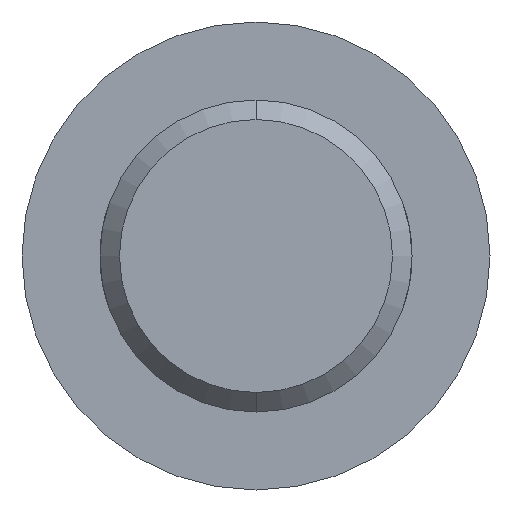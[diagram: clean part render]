
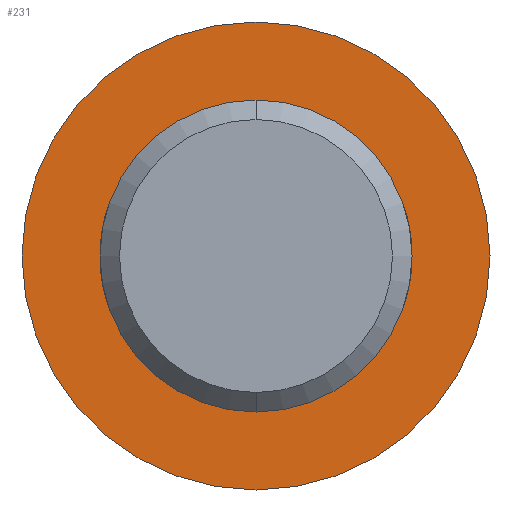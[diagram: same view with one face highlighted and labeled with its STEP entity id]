
A CAD part, front view. The second image highlights one B-rep face of the part: STEP entity #231.
In plain terms, the highlighted planar face has unit normal (0, -1, 0).
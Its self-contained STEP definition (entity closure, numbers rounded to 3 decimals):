
#13 = DIRECTION ( 'NONE',  ( 0., 0., 1. ) ) ;
#27 = DIRECTION ( 'NONE',  ( 0., 0., -1. ) ) ;
#29 = CIRCLE ( 'NONE', #338, 4. ) ;
#30 = VERTEX_POINT ( 'NONE', #36 ) ;
#34 = VERTEX_POINT ( 'NONE', #119 ) ;
#36 = CARTESIAN_POINT ( 'NONE',  ( 0., 0., 6. ) ) ;
#57 = ORIENTED_EDGE ( 'NONE', *, *, #73, .F. ) ;
#62 = CARTESIAN_POINT ( 'NONE',  ( 0., 0., 0. ) ) ;
#70 = DIRECTION ( 'NONE',  ( 0., 0., 1. ) ) ;
#73 = EDGE_CURVE ( 'NONE', #30, #175, #363, .T. ) ;
#119 = CARTESIAN_POINT ( 'NONE',  ( 0., 0., -4. ) ) ;
#132 = EDGE_LOOP ( 'NONE', ( #153, #212 ) ) ;
#135 = CARTESIAN_POINT ( 'NONE',  ( 0., 0., 0. ) ) ;
#153 = ORIENTED_EDGE ( 'NONE', *, *, #275, .F. ) ;
#175 = VERTEX_POINT ( 'NONE', #325 ) ;
#186 = AXIS2_PLACEMENT_3D ( 'NONE', #342, #350, #13 ) ;
#189 = AXIS2_PLACEMENT_3D ( 'NONE', #62, #316, #70 ) ;
#190 = AXIS2_PLACEMENT_3D ( 'NONE', #135, #248, #27 ) ;
#206 = CARTESIAN_POINT ( 'NONE',  ( 0., 0., 0. ) ) ;
#212 = ORIENTED_EDGE ( 'NONE', *, *, #283, .F. ) ;
#213 = CIRCLE ( 'NONE', #256, 6. ) ;
#231 = ADVANCED_FACE ( 'NONE', ( #293, #474 ), #434, .F. ) ;
#248 = DIRECTION ( 'NONE',  ( 0., -1., 0. ) ) ;
#256 = AXIS2_PLACEMENT_3D ( 'NONE', #206, #289, #432 ) ;
#262 = EDGE_CURVE ( 'NONE', #175, #30, #213, .T. ) ;
#275 = EDGE_CURVE ( 'NONE', #370, #34, #405, .T. ) ;
#283 = EDGE_CURVE ( 'NONE', #34, #370, #29, .T. ) ;
#285 = CARTESIAN_POINT ( 'NONE',  ( 0., 0., 0. ) ) ;
#289 = DIRECTION ( 'NONE',  ( 0., 1., 0. ) ) ;
#293 = FACE_BOUND ( 'NONE', #132, .T. ) ;
#296 = CARTESIAN_POINT ( 'NONE',  ( 0., 0., 4. ) ) ;
#303 = EDGE_LOOP ( 'NONE', ( #467, #57 ) ) ;
#316 = DIRECTION ( 'NONE',  ( 0., 1., 0. ) ) ;
#325 = CARTESIAN_POINT ( 'NONE',  ( 0., 0., -6. ) ) ;
#338 = AXIS2_PLACEMENT_3D ( 'NONE', #285, #424, #395 ) ;
#342 = CARTESIAN_POINT ( 'NONE',  ( 0., 0., 0. ) ) ;
#350 = DIRECTION ( 'NONE',  ( 0., 1., 0. ) ) ;
#363 = CIRCLE ( 'NONE', #186, 6. ) ;
#370 = VERTEX_POINT ( 'NONE', #296 ) ;
#395 = DIRECTION ( 'NONE',  ( 0., 0., -1. ) ) ;
#405 = CIRCLE ( 'NONE', #190, 4. ) ;
#424 = DIRECTION ( 'NONE',  ( 0., -1., 0. ) ) ;
#432 = DIRECTION ( 'NONE',  ( 0., 0., 1. ) ) ;
#434 = PLANE ( 'NONE',  #189 ) ;
#467 = ORIENTED_EDGE ( 'NONE', *, *, #262, .F. ) ;
#474 = FACE_OUTER_BOUND ( 'NONE', #303, .T. ) ;
